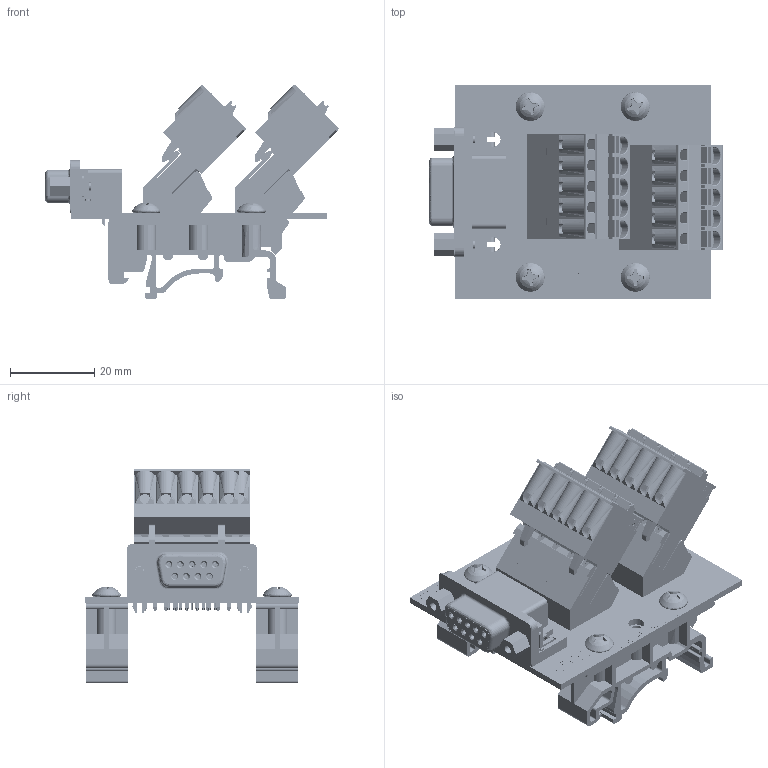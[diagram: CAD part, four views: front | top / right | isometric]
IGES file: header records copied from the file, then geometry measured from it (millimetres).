
Start section: SolidWorks IGES file using analytic representation for surfaces
Global section: file name: D:\Documents\Winford Engineering Jobs\BRKLD9\BRKLD9F\brkld9f-rg-din_rev_a.igs; native system: SolidWorks 2017; preprocessor: SolidWorks 2017; author: mudhf; date: 201129.205917; units: inch
Bounding box: 69.82 x 50.8 x 51.02 mm (x, y, z)
Surface area: 31472.1 mm2 (no closed solid volume)
Topology: 0 solids, 0 shells, 3464 faces, 26419 edges, 26413 vertices
Faces by surface type: bspline 2412, revolution 1052
